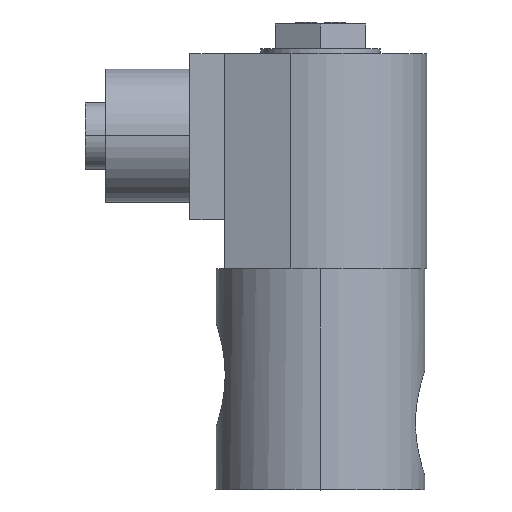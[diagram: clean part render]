
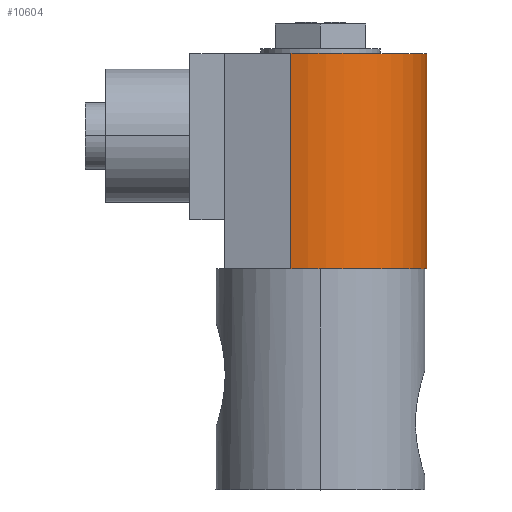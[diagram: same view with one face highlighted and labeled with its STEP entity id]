
A CAD part, top view. The second image highlights one B-rep face of the part: STEP entity #10604.
In plain terms, the highlighted cylindrical face has radius 20.32 mm (diameter 40.64 mm), a partial arc.
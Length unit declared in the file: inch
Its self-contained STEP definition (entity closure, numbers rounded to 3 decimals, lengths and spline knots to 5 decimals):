
#69 = VERTEX_POINT ( 'NONE', #15441 ) ;
#419 = EDGE_LOOP ( 'NONE', ( #3159, #14950, #11357, #5112 ) ) ;
#438 = DIRECTION ( 'NONE',  ( 0., 1., 0. ) ) ;
#922 = EDGE_CURVE ( 'Defeatured_0_4+Defeatured_0_3+Defeatured_0_1+Defeatured_0_6', #69, #10558, #3404, .T. ) ;
#1839 = CARTESIAN_POINT ( 'NONE',  ( -0.22081, 0.831, 0.76892 ) ) ;
#1948 = FACE_OUTER_BOUND ( 'NONE', #419, .T. ) ;
#2042 = EDGE_CURVE ( 'NONE', #12775, #11669, #14326, .T. ) ;
#3011 = AXIS2_PLACEMENT_3D ( 'NONE', #19997, #5284, #11837 ) ;
#3159 = ORIENTED_EDGE ( 'NONE', *, *, #2042, .F. ) ;
#3404 = LINE ( 'NONE', #9957, #6096 ) ;
#3995 = EDGE_CURVE ( 'Defeatured_0_1+Defeatured_0_4+Defeatured_0_3+Defeatured_0_5', #69, #12775, #7186, .T. ) ;
#4229 = CIRCLE ( 'NONE', #13491, 0.8 ) ;
#4644 = DIRECTION ( 'NONE',  ( 0., 1., 0. ) ) ;
#5112 = ORIENTED_EDGE ( 'NONE', *, *, #6221, .T. ) ;
#5284 = DIRECTION ( 'NONE',  ( 0., -1., 0. ) ) ;
#6096 = VECTOR ( 'NONE', #16520, 39.37008 ) ;
#6141 = DIRECTION ( 'NONE',  ( 0., -1., 0. ) ) ;
#6221 = EDGE_CURVE ( 'Defeatured_0_4+Defeatured_0_6+Defeatured_0_3+Defeatured_0_5', #10558, #11669, #4229, .T. ) ;
#7000 = DIRECTION ( 'NONE',  ( -1., 0., 0. ) ) ;
#7186 = CIRCLE ( 'NONE', #9931, 0.8 ) ;
#9207 = VECTOR ( 'NONE', #6141, 39.37008 ) ;
#9931 = AXIS2_PLACEMENT_3D ( 'NONE', #14418, #4644, #11199 ) ;
#9957 = CARTESIAN_POINT ( 'NONE',  ( -0.22081, 2.451, 0.76892 ) ) ;
#10234 = CARTESIAN_POINT ( 'NONE',  ( 0., 0.831, 0. ) ) ;
#10558 = VERTEX_POINT ( 'NONE', #1839 ) ;
#10604 = ADVANCED_FACE ( 'Defeatured_0_4', ( #1948 ), #13435, .T. ) ;
#11167 = CARTESIAN_POINT ( 'NONE',  ( 0.8, 0.831, 0. ) ) ;
#11199 = DIRECTION ( 'NONE',  ( -1., 0., 0. ) ) ;
#11357 = ORIENTED_EDGE ( 'NONE', *, *, #922, .T. ) ;
#11669 = VERTEX_POINT ( 'NONE', #11167 ) ;
#11837 = DIRECTION ( 'NONE',  ( 1., 0., 0. ) ) ;
#12775 = VERTEX_POINT ( 'NONE', #17543 ) ;
#13435 = CYLINDRICAL_SURFACE ( 'NONE', #3011, 0.8 ) ;
#13491 = AXIS2_PLACEMENT_3D ( 'NONE', #10234, #438, #7000 ) ;
#14326 = LINE ( 'NONE', #20873, #9207 ) ;
#14418 = CARTESIAN_POINT ( 'NONE',  ( 0., 2.451, 0. ) ) ;
#14950 = ORIENTED_EDGE ( 'NONE', *, *, #3995, .F. ) ;
#15441 = CARTESIAN_POINT ( 'NONE',  ( -0.22081, 2.451, 0.76892 ) ) ;
#16520 = DIRECTION ( 'NONE',  ( 0., -1., 0. ) ) ;
#17543 = CARTESIAN_POINT ( 'NONE',  ( 0.8, 2.451, 0. ) ) ;
#19997 = CARTESIAN_POINT ( 'NONE',  ( 0., 2.451, 0. ) ) ;
#20873 = CARTESIAN_POINT ( 'NONE',  ( 0.8, 2.451, 0. ) ) ;
